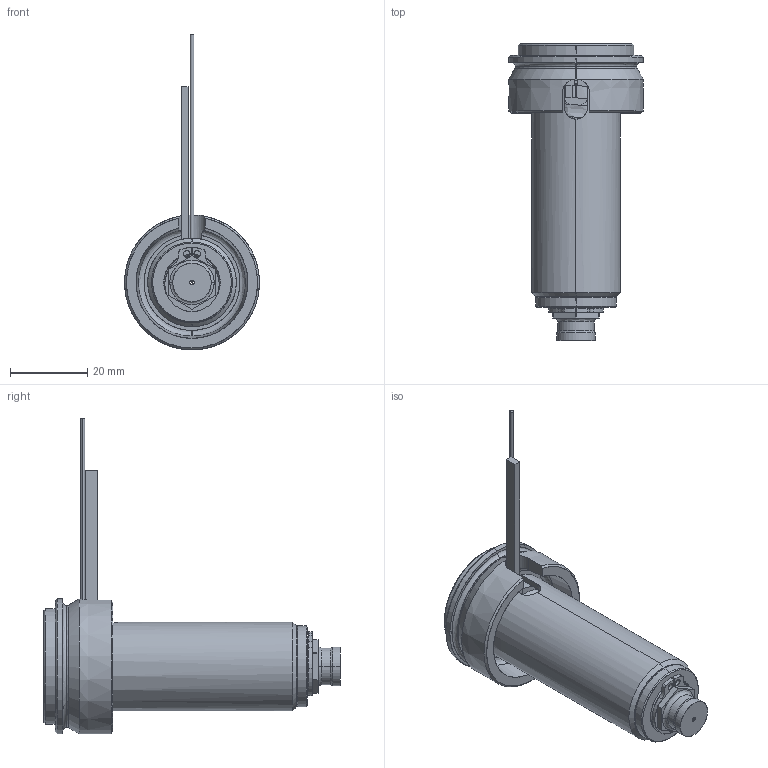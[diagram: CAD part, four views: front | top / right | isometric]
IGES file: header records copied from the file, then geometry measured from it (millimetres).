
Start section: SolidWorks IGES file using analytic representation for surfaces
Global section: file name: C:\Documents and Settings\ws-20\Desktop\TEM\UGEP3151-M-A-0 [Øf-0.30 P-0 ØC-7.0].IGS; native system: SolidWorks 2012; preprocessor: SolidWorks 2012; author: ws-20; date: 120404.081713; units: millimetre
Bounding box: 35 x 77 x 81.9 mm (x, y, z)
Surface area: 17252.7 mm2 (no closed solid volume)
Topology: 0 solids, 0 shells, 123 faces, 1756 edges, 1756 vertices
Faces by surface type: revolution 74, bspline 49
